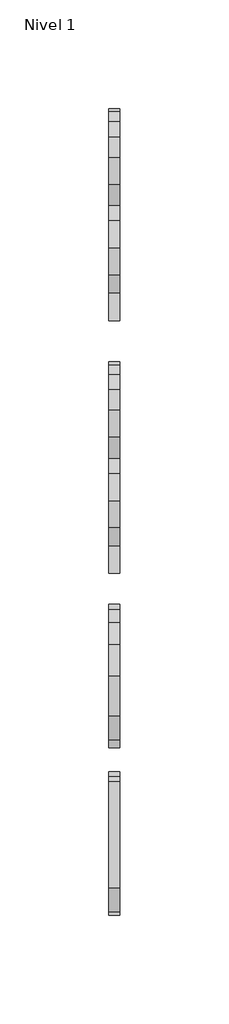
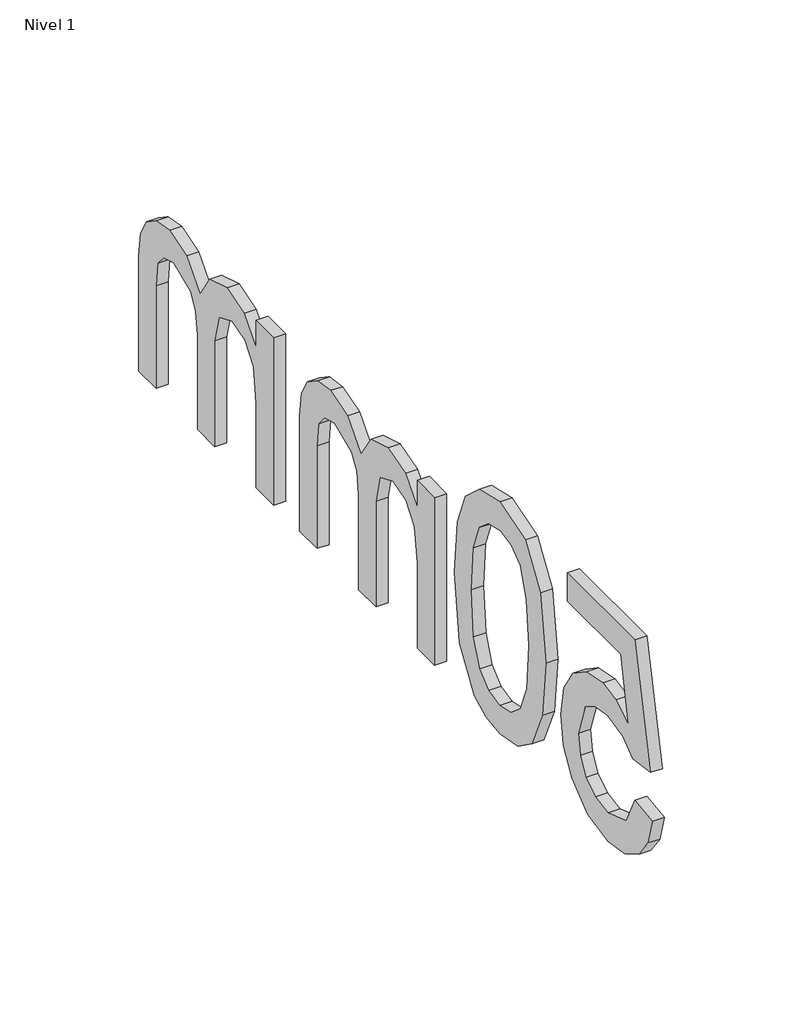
# One storey, incomplete: 1 proxy.
"""IFC4 building model written with IfcOpenShell, lengths in millimetres."""

from ifc_helpers import new_model, si_unit, frame, origin, place, context, project, spatial, polyline, outline, extrude, element, save

model = new_model("IFC4")

# Units and contexts
model_context = context("Model", 3, world=origin())
ifc_project = project(units=[si_unit("LENGTHUNIT", "METRE", prefix="MILLI")], contexts=[model_context])

# Site, building, storey
site = spatial("IfcSite", under=ifc_project)
building = spatial("IfcBuilding", under=site)
storey = spatial("IfcBuildingStorey", under=building, Name="Nivel 1", Elevation=0.0)

# Proxy
placement = place(None, origin())
element("IfcBuildingElementProxy", 1, Name="100mm Arial", ObjectType="100mm Arial", at=placement, inside=storey, context=model_context, shape_type="SweptSolid", body=[
    extrude(outline(polyline([(14811.6332666, -790.4578656), (14824.1903054, -788.8882358), (14830.5178757, -801.8254193), (14843.6390002, -806.1541641), (14852.6398463, -804.6489136), (14859.3843496, -800.1331621), (14863.5965984, -793.1280758), (14865.0006814, -784.1548208), (14859.7399688, -769.2433373), (14853.1334213, -765.141453), (14843.8352039, -763.7741583), (14832.8110068, -765.9569248), (14825.7599352, -771.6223075), (14813.2028965, -770.0526776), (14824.1903054, -718.2548927), (14872.8488306, -718.2548927), (14872.8488306, -730.8119315), (14834.3438484, -730.8119315), (14828.9727713, -758.4766575), (14837.9429606, -753.032004), (14847.3423456, -751.2171195), (14859.0747156, -753.467331), (14868.8143914, -760.2179656), (14875.371888, -770.5063988), (14877.5577201, -783.3700059), (14875.5895515, -795.9270446), (14869.6850454, -806.6691989), (14858.3788055, -815.7007019), (14843.5899493, -818.7112029), (14831.2567054, -816.7767567), (14821.4311904, -810.9734182), (14814.6958842, -801.9756378), (14811.6332666, -790.4578656)])), frame((9557.0230098, 0.0, 0.0), z_axis=(1.0, 0.0, 0.0), x_axis=(0.0, 1.0, 0.0)), (0.0, 0.0, 1.0), 5.0),
    extrude(outline(polyline([(14888.5451291, -767.7227583), (14892.2362118, -738.8194963), (14903.1990952, -722.1544419), (14921.5073558, -716.6852629), (14936.1735847, -719.9226244), (14946.3026023, -729.2545644), (14952.1887142, -744.116997), (14954.4695826, -767.7227583), (14950.8152881, -796.5033931), (14939.8891929, -813.2052357), (14931.6578332, -817.3347111), (14921.5073558, -818.7112029), (14908.4598077, -816.3199699), (14898.5515193, -809.146271), (14891.0467266, -792.1562542), (14888.5451291, -767.7227583)]), holes=[polyline([(14901.1021678, -767.6982329), (14902.5736958, -787.4504303), (14906.9882798, -798.8823633), (14913.5611047, -804.3362139), (14921.5073558, -806.1541641), (14929.4536069, -804.3300825), (14936.0264319, -798.8578379), (14940.4410159, -787.4197735), (14941.9125438, -767.6982329), (14940.4900668, -748.3905595), (14936.2226356, -736.8697217), (14929.6620734, -731.1491567), (14921.360203, -729.2423016), (14913.4997911, -730.9222961), (14907.1844835, -735.9622794), (14902.6227467, -748.2004871), (14901.1021678, -767.6982329)])]), frame((9557.0230098, 0.0, 0.0), z_axis=(1.0, 0.0, 0.0), x_axis=(0.0, 1.0, 0.0)), (0.0, 0.0, 1.0), 5.0),
    extrude(outline(polyline([(14968.5962512, -817.141573), (14968.5962512, -743.3689703), (14981.15329, -743.3689703), (14981.15329, -755.5090761), (14989.7862541, -745.5639995), (15002.0735128, -741.7993404), (15014.655077, -745.6375759), (15021.5712585, -756.3919929), (15031.3691823, -745.4475035), (15043.7422801, -741.7993404), (15053.181519, -743.3168536), (15060.1620798, -747.8693933), (15064.4754962, -755.5795868), (15065.9133017, -766.5700614), (15065.9133017, -817.141573), (15053.3562629, -817.141573), (15053.3562629, -771.965664), (15052.1913033, -761.4810272), (15047.972923, -756.3184165), (15040.7992241, -754.3563792), (15028.4506518, -759.3840998), (15024.7626348, -765.9262679), (15023.5332958, -775.4973312), (15023.5332958, -817.141573), (15010.9762571, -817.141573), (15010.9762571, -770.5677124), (15008.0699893, -758.4030811), (14998.5418456, -754.3563792), (14989.2466939, -757.0541805), (14983.0662764, -764.9513806), (14981.15329, -779.9364406), (14981.15329, -817.141573), (14968.5962512, -817.141573)])), frame((9557.0230098, 0.0, 0.0), z_axis=(1.0, 0.0, 0.0), x_axis=(0.0, 1.0, 0.0)), (0.0, 0.0, 1.0), 5.0),
    extrude(outline(polyline([(15084.7488598, -817.141573), (15084.7488598, -743.3689703), (15097.3058986, -743.3689703), (15097.3058986, -755.5090761), (15105.9388628, -745.5639995), (15118.2261214, -741.7993404), (15130.8076856, -745.6375759), (15137.7238671, -756.3919929), (15147.5217909, -745.4475035), (15159.8948887, -741.7993404), (15169.3341276, -743.3168536), (15176.3146884, -747.8693933), (15180.6281048, -755.5795868), (15182.0659103, -766.5700614), (15182.0659103, -817.141573), (15169.5088715, -817.141573), (15169.5088715, -771.965664), (15168.3439119, -761.4810272), (15164.1255317, -756.3184165), (15156.9518327, -754.3563792), (15144.6032604, -759.3840998), (15140.9152434, -765.9262679), (15139.6859044, -775.4973312), (15139.6859044, -817.141573), (15127.1288657, -817.141573), (15127.1288657, -770.5677124), (15124.2225979, -758.4030811), (15114.6944542, -754.3563792), (15105.3993025, -757.0541805), (15099.218885, -764.9513806), (15097.3058986, -779.9364406), (15097.3058986, -817.141573), (15084.7488598, -817.141573)])), frame((9557.0230098, 0.0, 0.0), z_axis=(1.0, 0.0, 0.0), x_axis=(0.0, 1.0, 0.0)), (0.0, 0.0, 1.0), 5.0),
])

save(model, "model.ifc")
